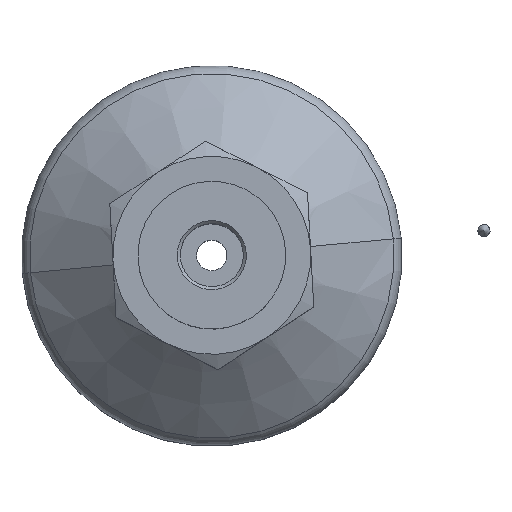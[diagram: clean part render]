
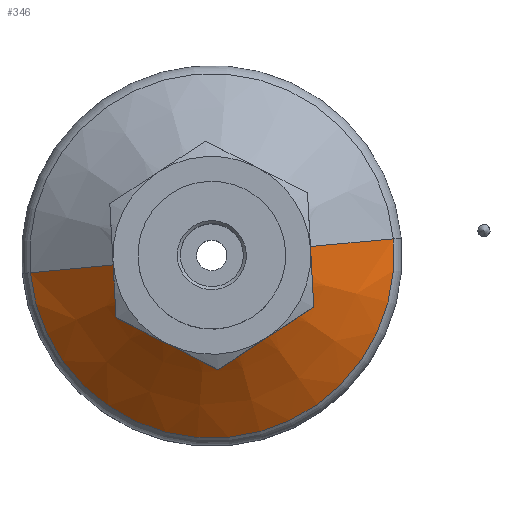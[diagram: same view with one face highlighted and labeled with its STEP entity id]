
A CAD part, top view. The second image highlights one B-rep face of the part: STEP entity #346.
In plain terms, the highlighted conical face has half-angle 49.959 degrees and reference radius 5.535 mm.
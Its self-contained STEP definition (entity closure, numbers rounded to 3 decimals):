
#346=ADVANCED_FACE('',(#667),#668,.T.);
#667=FACE_OUTER_BOUND('',#967,.T.);
#668=CONICAL_SURFACE('',#968,5.535,0.872);
#967=EDGE_LOOP('',(#1550,#1551,#1552,#1553));
#968=AXIS2_PLACEMENT_3D('',#1554,#1555,#1556);
#1550=ORIENTED_EDGE('',*,*,#1813,.F.);
#1551=ORIENTED_EDGE('',*,*,#1859,.T.);
#1552=ORIENTED_EDGE('',*,*,#1860,.T.);
#1553=ORIENTED_EDGE('',*,*,#1861,.F.);
#1554=CARTESIAN_POINT('',(0.,0.0,27.052));
#1555=DIRECTION('',(0.,-0.0,-1.0));
#1556=DIRECTION('',(1.0,0.0,0.));
#1813=EDGE_CURVE('',#2071,#2069,#2131,.T.);
#1859=EDGE_CURVE('',#2071,#2148,#2186,.T.);
#1860=EDGE_CURVE('',#2148,#2150,#2187,.T.);
#1861=EDGE_CURVE('',#2069,#2150,#2188,.T.);
#2069=VERTEX_POINT('',#2500);
#2071=VERTEX_POINT('',#2502);
#2131=CIRCLE('',#2572,5.535);
#2148=VERTEX_POINT('',#2591);
#2150=VERTEX_POINT('',#2593);
#2186=LINE('',#2635,#2636);
#2187=CIRCLE('',#2637,11.965);
#2188=LINE('',#2638,#2639);
#2500=CARTESIAN_POINT('',(5.535,0.0,27.052));
#2502=CARTESIAN_POINT('',(-5.535,0.,27.052));
#2572=AXIS2_PLACEMENT_3D('',#2896,#2897,#2898);
#2591=CARTESIAN_POINT('',(-11.965,0.0,21.648));
#2593=CARTESIAN_POINT('',(11.965,0.,21.648));
#2635=CARTESIAN_POINT('',(-5.535,0.,27.052));
#2636=VECTOR('',#2964,1.0);
#2637=AXIS2_PLACEMENT_3D('',#2965,#2966,#2967);
#2638=CARTESIAN_POINT('',(5.535,0.0,27.052));
#2639=VECTOR('',#2968,1.0);
#2896=CARTESIAN_POINT('',(0.,0.0,27.052));
#2897=DIRECTION('',(0.,0.0,1.0));
#2898=DIRECTION('',(-1.0,0.0,0.));
#2964=DIRECTION('',(-0.766,0.,-0.643));
#2965=CARTESIAN_POINT('',(0.,0.0,21.648));
#2966=DIRECTION('',(0.,0.0,1.0));
#2967=DIRECTION('',(-1.0,0.0,0.));
#2968=DIRECTION('',(0.766,0.0,-0.643));
